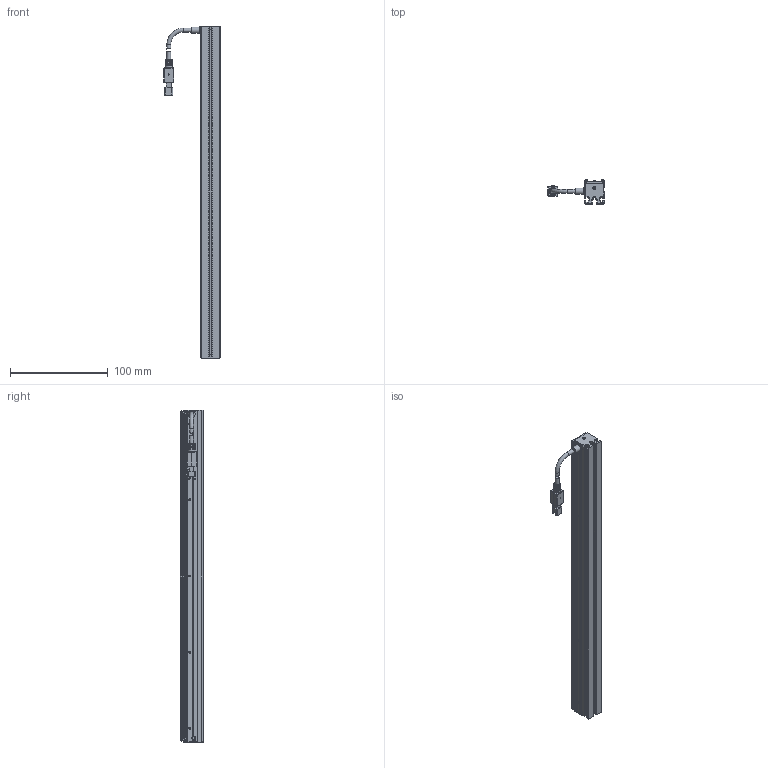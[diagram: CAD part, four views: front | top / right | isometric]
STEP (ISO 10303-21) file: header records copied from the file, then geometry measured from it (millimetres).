
FILE_DESCRIPTION (( 'STEP AP203' ), '1' );
FILE_NAME ('OPT-ULI34020W-UV-V1.0U 尨砩芞.STEP', '2024-12-11T03:45:36', ( '' ), ( '' ), 'SwSTEP 2.0', 'SolidWorks 2016', '' );
FILE_SCHEMA (( 'CONFIG_CONTROL_DESIGN' ));
Length unit declared in the file: millimetre
Products named in the file (1): OPT-ULI34020W-UV-V1.0U 尨砩芞
Bounding box: 57.6 x 24 x 340 mm (x, y, z)
Volume: 131288.2 mm3; surface area: 58790.2 mm2
Topology: 6 solids, 16 shells, 638 faces, 1646 edges, 1064 vertices
Faces by surface type: plane 433, cylinder 146, cone 30, bspline 21, torus 8
Full cylindrical faces by diameter (mm): 1.1 x2, 1.4 x4, 1.6 x9, 2 x17, 2.4 x7, 2.5 x2, 2.6 x2, 3 x2, 3.5 x1, 4.1 x4, 6.5 x1, 7 x1, 7.5 x1
Entity records: 19295 total; most frequent: CARTESIAN_POINT 4404, ORIENTED_EDGE 3026, DIRECTION 2958, EDGE_CURVE 1513, VECTOR 1044, LINE 1044, VERTEX_POINT 1018, AXIS2_PLACEMENT_3D 957
